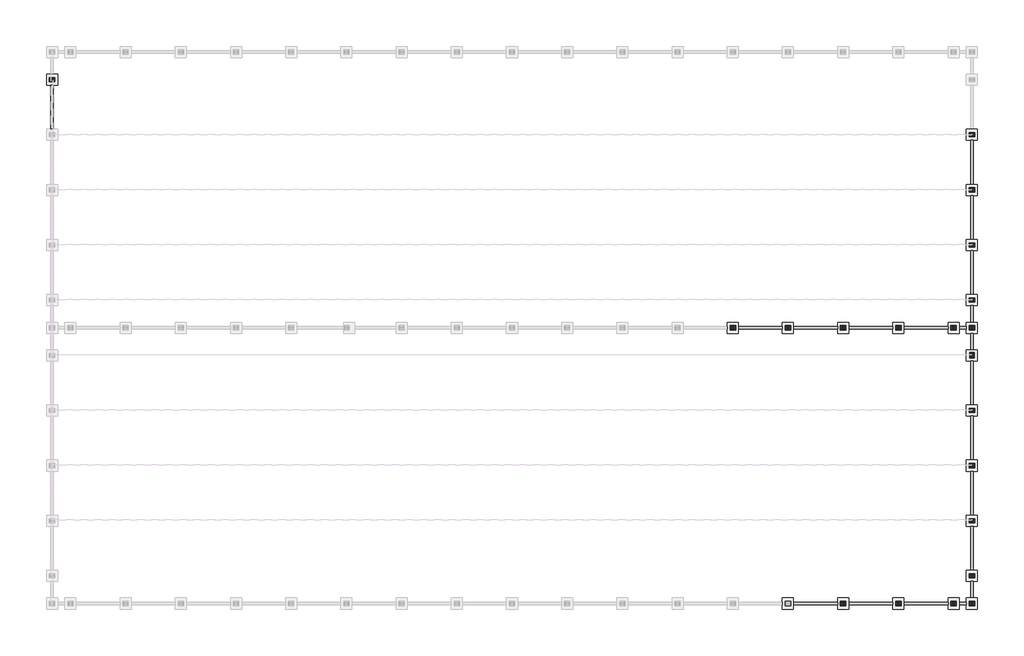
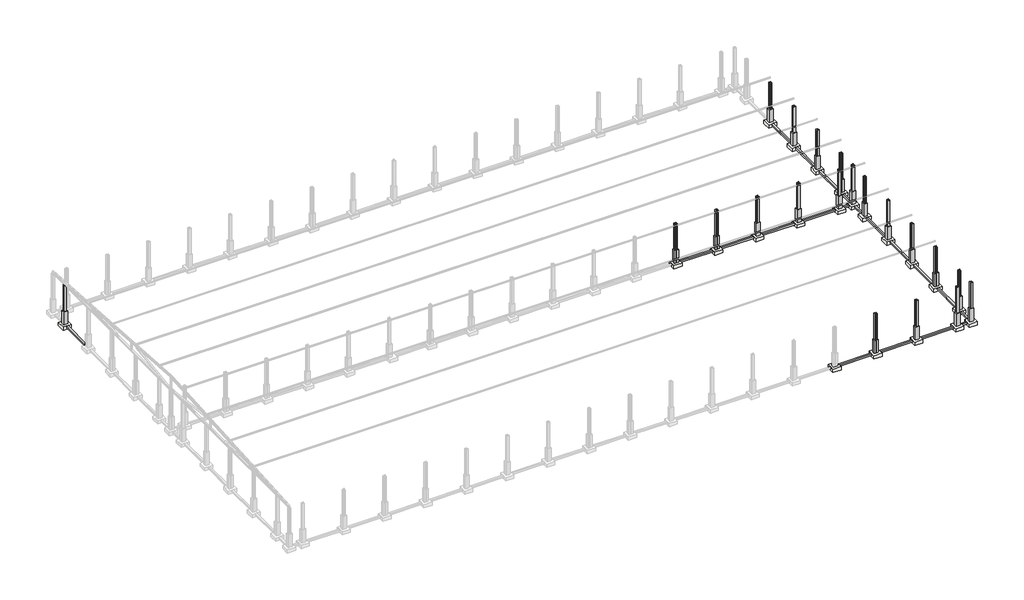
# One storey, part 3 of 4: 40 columns, 21 slabs, 20 beams.
"""IFC4 building model written with IfcOpenShell, lengths in millimetres."""

import ifcopenshell
import ifcopenshell.guid

model = None  # the IFC model being written
_history = None  # IfcOwnerHistory: only IFC2X3 demands one
_inside = {}  # id of a spatial element -> (the spatial element, [elements in it])
_under = {}  # id of a project, library or spatial element -> (it, [spatial elements below it])
_declared = {}  # id of a project -> (the project, [libraries it declares])
_typed = {}  # id of a type object -> (the type object, [elements of that type])
_made_of = {}  # id of a material, layer set ... -> (it, [elements and type objects made of it])


def new_model(schema):
    """Start an empty IFC model of exactly this schema.

    Asked for "IFC4X3", IfcOpenShell would pick the latest addendum, in which some entities
    have other attributes; the version numbers below select the first issue.
    IFC2X3 requires an IfcOwnerHistory on every rooted entity: one is made here for all.
    """
    global model, _history
    if schema == "IFC4X3":
        model = ifcopenshell.file(schema_version=(4, 3, 0, 0))
    else:
        model = ifcopenshell.file(schema=schema)
    _inside.clear()
    _under.clear()
    _declared.clear()
    _typed.clear()
    _made_of.clear()
    _history = None
    if model.schema == "IFC2X3":
        org = make("IfcOrganization", Name="unknown")
        user = make(
            "IfcPersonAndOrganization",
            ThePerson=make("IfcPerson", FamilyName="unknown"),
            TheOrganization=org,
        )
        app = make(
            "IfcApplication",
            ApplicationDeveloper=org,
            Version="unknown",
            ApplicationFullName="unknown",
            ApplicationIdentifier="unknown",
        )
        _history = make(
            "IfcOwnerHistory",
            OwningUser=user,
            OwningApplication=app,
            ChangeAction="ADDED",
            CreationDate=0,
        )
    return model


def make(cls, **values):
    """One entity of the class cls with the attributes given. An attribute that is None is left unset."""
    return model.create_entity(
        cls, **{name: value for name, value in values.items() if value is not None}
    )


def rooted(cls, **values):
    """An entity with a GlobalId (a new one), such as an element, a storey or a relation."""
    return make(cls, GlobalId=ifcopenshell.guid.new(), OwnerHistory=_history, **values)


def si_unit(unit_type, name, prefix=None):
    """IfcSIUnit, for example si_unit("LENGTHUNIT", "METRE", prefix="MILLI")."""
    return make("IfcSIUnit", UnitType=unit_type, Prefix=prefix, Name=name)


def assignment(units):
    """IfcUnitAssignment: the units of a project."""
    return None if units is None else make("IfcUnitAssignment", Units=units)


def point(xyz):
    """IfcCartesianPoint."""
    return None if xyz is None else make("IfcCartesianPoint", Coordinates=xyz)


def direction(xyz):
    """IfcDirection."""
    return None if xyz is None else make("IfcDirection", DirectionRatios=xyz)


def frame(location, z_axis=None, x_axis=None):
    """IfcAxis2Placement3D, a coordinate frame: its origin and axes. An axis left out is left unset."""
    return make(
        "IfcAxis2Placement3D",
        Location=point(location),
        Axis=direction(z_axis),
        RefDirection=direction(x_axis),
    )


def frame_2d(location, x_axis=None):
    """IfcAxis2Placement2D, a coordinate frame in the plane: its origin and x axis."""
    return make(
        "IfcAxis2Placement2D", Location=point(location), RefDirection=direction(x_axis)
    )


def origin():
    """The frame at (0, 0, 0) with its axes left unset."""
    return frame((0.0, 0.0, 0.0))


def origin_with_axes():
    """The frame at (0, 0, 0) with the z axis (0, 0, 1) and the x axis (1, 0, 0) written out."""
    return frame((0.0, 0.0, 0.0), z_axis=(0.0, 0.0, 1.0), x_axis=(1.0, 0.0, 0.0))


def place(relative_to, where):
    """IfcLocalPlacement: puts the frame where relative to a parent placement (None: the world)."""
    return make(
        "IfcLocalPlacement", PlacementRelTo=relative_to, RelativePlacement=where
    )


def context(
    kind, dimensions, precision=None, world=None, true_north=None, identifier=None
):
    """IfcGeometricRepresentationContext, for example the 3D "Model" context."""
    return make(
        "IfcGeometricRepresentationContext",
        ContextIdentifier=identifier,
        ContextType=kind,
        CoordinateSpaceDimension=dimensions,
        Precision=precision,
        WorldCoordinateSystem=world,
        TrueNorth=true_north,
    )


def project(units=None, contexts=None):
    """IfcProject with its units and contexts."""
    return rooted(
        "IfcProject",
        Name="project",
        RepresentationContexts=contexts,
        UnitsInContext=assignment(units),
    )


def spatial(cls, under=None, at=None, **own):
    """A site, building, storey or space (cls), placed at a placement, below another one or the project."""
    s = rooted(cls, ObjectPlacement=at, **own)
    if under is not None:
        _under.setdefault(under.id(), (under, []))[1].append(s)
    return s


def polyline(points):
    """IfcPolyline through the points."""
    return make("IfcPolyline", Points=[point(p) for p in points])


def circle_curve(where, radius):
    """IfcCircle in the frame where."""
    return make("IfcCircle", Position=where, Radius=radius)


def trimmed(basis, trim1, trim2, sense, master):
    """IfcTrimmedCurve: the piece of a basis curve between two trims."""
    return make(
        "IfcTrimmedCurve",
        BasisCurve=basis,
        Trim1=trim1,
        Trim2=trim2,
        SenseAgreement=sense,
        MasterRepresentation=master,
    )


def segment(curve, same_sense, transition):
    """IfcCompositeCurveSegment."""
    return make(
        "IfcCompositeCurveSegment",
        Transition=transition,
        SameSense=same_sense,
        ParentCurve=curve,
    )


def composite_curve(segments, self_intersect=None):
    """IfcCompositeCurve: segments joined end to end."""
    return make("IfcCompositeCurve", Segments=segments, SelfIntersect=self_intersect)


def outline(outer, holes=None, kind="AREA"):
    """IfcArbitraryClosedProfileDef: a profile drawn as a closed curve; with holes, ...WithVoids."""
    if holes is None:
        return make("IfcArbitraryClosedProfileDef", ProfileType=kind, OuterCurve=outer)
    return make(
        "IfcArbitraryProfileDefWithVoids",
        ProfileType=kind,
        OuterCurve=outer,
        InnerCurves=holes,
    )


def extrude(swept, where, along, depth):
    """IfcExtrudedAreaSolid: the profile swept, set in the frame where, extruded along a direction by depth."""
    return make(
        "IfcExtrudedAreaSolid",
        SweptArea=swept,
        Position=where,
        ExtrudedDirection=direction(along),
        Depth=depth,
    )


def faces_of(points, faces, orient=None, outer=None):
    """IfcFace entities. A face is a list of loops; a loop is a list of indices into points, from 0.

    orient and outer hold one flag for each loop. By default every Orientation is true, the
    first loop of a face is its IfcFaceOuterBound and the others are IfcFaceBound.
    """
    made = []
    for i, loops in enumerate(faces):
        bounds = []
        for j, loop in enumerate(loops):
            is_outer = j == 0 if outer is None else outer[i][j]
            bounds.append(
                make(
                    "IfcFaceOuterBound" if is_outer else "IfcFaceBound",
                    Bound=make("IfcPolyLoop", Polygon=[points[k] for k in loop]),
                    Orientation=True if orient is None else orient[i][j],
                )
            )
        made.append(make("IfcFace", Bounds=bounds))
    return made


def faceted_brep(points, faces, orient=None, outer=None, voids=None):
    """IfcFacetedBrep: a solid bounded by flat faces; with voids (closed shells), ...WithVoids."""
    shared = [point(p) for p in points]
    hull = make("IfcClosedShell", CfsFaces=faces_of(shared, faces, orient, outer))
    if voids is None:
        return make("IfcFacetedBrep", Outer=hull)
    return make(
        "IfcFacetedBrepWithVoids",
        Outer=hull,
        Voids=[
            make(cls, CfsFaces=faces_of(shared, fs, o, b)) for cls, fs, o, b in voids
        ],
    )


def shape(context_of_items, identifier, shape_type, items):
    """IfcShapeRepresentation: the items that make up one representation, for example the "Body"."""
    return make(
        "IfcShapeRepresentation",
        ContextOfItems=context_of_items,
        RepresentationIdentifier=identifier,
        RepresentationType=shape_type,
        Items=items,
    )


def source(mapping_origin, context_of_items, identifier, shape_type, items):
    """IfcRepresentationMap: a shape defined once, which mapped items show again and again."""
    return make(
        "IfcRepresentationMap",
        MappingOrigin=mapping_origin,
        MappedRepresentation=shape(context_of_items, identifier, shape_type, items),
    )


def transform(
    local_origin,
    x_axis=None,
    y_axis=None,
    z_axis=None,
    scale=None,
    scale2=None,
    scale3=None,
    uniform=True,
):
    """IfcCartesianTransformationOperator3D, or its non-uniform kind. x_axis, y_axis, z_axis: its Axis1, 2, 3."""
    if uniform:
        return make(
            "IfcCartesianTransformationOperator3D",
            Axis1=direction(x_axis),
            Axis2=direction(y_axis),
            LocalOrigin=point(local_origin),
            Scale=scale,
            Axis3=direction(z_axis),
        )
    return make(
        "IfcCartesianTransformationOperator3DnonUniform",
        Axis1=direction(x_axis),
        Axis2=direction(y_axis),
        LocalOrigin=point(local_origin),
        Scale=scale,
        Axis3=direction(z_axis),
        Scale2=scale2,
        Scale3=scale3,
    )


def mapped(mapping_source, mapping_target):
    """IfcMappedItem: shows the shape of a source again, moved by a transform."""
    return make(
        "IfcMappedItem", MappingSource=mapping_source, MappingTarget=mapping_target
    )


def made_of(thing, what):
    """Note that an element or type object is made of a material, layer set ...; save() writes the relation."""
    if what is not None:
        _made_of.setdefault(what.id(), (what, []))[1].append(thing)
    return thing


def element(
    cls,
    number,
    at=None,
    inside=None,
    cuts=None,
    type_object=None,
    material=None,
    context=None,
    identifier="Body",
    shape_type=None,
    held_by="IfcProductDefinitionShape",
    body=None,
    shapes=None,
    **own,
):
    """One element of the class cls, such as IfcWall. Its Tag is "e" and its number.

    at: its placement. inside: the storey or other place that contains it. cuts: it is an
    opening in that element (IfcRelVoidsElement). A single representation is given by context,
    identifier, shape_type and body (its items); several are given by shapes. held_by: the class
    of the entity that holds the representations. save() writes the other relations.
    """
    e = rooted(cls, Tag="e%d" % number, ObjectPlacement=at, **own)
    if body is not None:
        shapes = [shape(context, identifier, shape_type, body)]
    if shapes is not None:
        e.Representation = make(held_by, Representations=shapes)
    if inside is not None:
        _inside.setdefault(inside.id(), (inside, []))[1].append(e)
    if cuts is not None:
        rooted(
            "IfcRelVoidsElement", RelatingBuildingElement=cuts, RelatedOpeningElement=e
        )
    if type_object is not None:
        _typed.setdefault(type_object.id(), (type_object, []))[1].append(e)
    return made_of(e, material)


def aggregate(whole, parts):
    """IfcRelAggregates: a whole, such as a stair, and the parts it consists of."""
    return rooted("IfcRelAggregates", RelatingObject=whole, RelatedObjects=parts)


def save(model, path):
    """Write the relations noted so far, then the file.

    IfcRelAggregates (storeys below a building ...), IfcRelContainedInSpatialStructure (elements
    in a storey), IfcRelDefinesByType, IfcRelAssociatesMaterial and IfcRelDeclares: one each for
    every whole, place, type object, material and project.
    """
    for whole, parts in _under.values():
        aggregate(whole, parts)
    for where, things in _inside.values():
        rooted(
            "IfcRelContainedInSpatialStructure",
            RelatedElements=things,
            RelatingStructure=where,
        )
    for kind, things in _typed.values():
        rooted("IfcRelDefinesByType", RelatedObjects=things, RelatingType=kind)
    for what, things in _made_of.values():
        rooted("IfcRelAssociatesMaterial", RelatedObjects=things, RelatingMaterial=what)
    for by, libraries in _declared.values():
        rooted("IfcRelDeclares", RelatingContext=by, RelatedDefinitions=libraries)
    model.write(path)


def columns_rectangular_450x600mm_2512dfd8(model_context):
    return source(origin(), model_context, "Body", "SweptSolid", [
        extrude(outline(polyline([(300.0, 225.0), (300.0, -225.0), (-300.0, -225.0), (-300.0, 225.0), (300.0, 225.0)])), origin_with_axes(), (0.0, 0.0, 1.0), 2000.0),
    ])


def uc_universal_columns_column_uc305x305x97_76abc542(model_context):
    return source(origin(), model_context, "Body", "SweptSolid", [
        extrude(outline(composite_curve([segment(polyline([(152.65, 153.95), (152.65, 138.55), (20.15, 138.55)]), True, "CONTINUOUS"), segment(trimmed(circle_curve(frame_2d((20.15, 123.35)), 15.2), [point((20.15, 138.55))], [point((4.95, 123.35))], True, "CARTESIAN"), True, "CONTINUOUS"), segment(polyline([(4.95, 123.35), (4.95, -123.35)]), True, "CONTINUOUS"), segment(trimmed(circle_curve(frame_2d((20.15, -123.35)), 15.2), [point((4.95, -123.35))], [point((20.15, -138.55))], True, "CARTESIAN"), True, "CONTINUOUS"), segment(polyline([(20.15, -138.55), (152.65, -138.55), (152.65, -153.95), (-152.65, -153.95), (-152.65, -138.55), (-20.15, -138.55)]), True, "CONTINUOUS"), segment(trimmed(circle_curve(frame_2d((-20.15, -123.35)), 15.2), [point((-20.15, -138.55))], [point((-4.95, -123.35))], True, "CARTESIAN"), True, "CONTINUOUS"), segment(polyline([(-4.95, -123.35), (-4.95, 123.35)]), True, "CONTINUOUS"), segment(trimmed(circle_curve(frame_2d((-20.15, 123.35)), 15.2), [point((-4.95, 123.35))], [point((-20.15, 138.55))], True, "CARTESIAN"), True, "CONTINUOUS"), segment(polyline([(-20.15, 138.55), (-152.65, 138.55), (-152.65, 153.95), (152.65, 153.95)]), True, "CONTINUOUS")], self_intersect=False)), origin_with_axes(), (0.0, 0.0, 1.0), 6000.0),
    ])


model = new_model("IFC4")

# Units and contexts
model_context = context("Model", 3, world=origin())
ifc_project = project(units=[si_unit("LENGTHUNIT", "METRE", prefix="MILLI")], contexts=[model_context])

# Site, building, storey
site = spatial("IfcSite", under=ifc_project)
building = spatial("IfcBuilding", under=site)
storey = spatial("IfcBuildingStorey", under=building, Name="Kota 0", Elevation=0.0)

# Beams
placement = place(None, origin())
element("IfcBeam", 1, ObjectType="Concrete-Rectangular Beam : 16 x 32", at=placement, inside=storey, context=model_context, shape_type="SweptSolid", body=[
    extrude(outline(polyline([(76463.6750595, -52841.8171651), (76463.6750595, -53091.8171651), (71663.6750595, -53091.8171651), (71663.6750595, -52841.8171651), (76463.6750595, -52841.8171651)])), frame((0.0, 0.0, -250.0), z_axis=(0.0, 0.0, 1.0), x_axis=(1.0, 0.0, 0.0)), (0.0, 0.0, 1.0), 250.0),
])
element("IfcBeam", 2, ObjectType="Concrete-Rectangular Beam : 16 x 32", at=placement, inside=storey, context=model_context, shape_type="SweptSolid", body=[
    extrude(outline(polyline([(82463.6750595, -52841.8171651), (82463.6750595, -53091.8171651), (77663.6750595, -53091.8171651), (77663.6750595, -52841.8171651), (82463.6750595, -52841.8171651)])), frame((0.0, 0.0, -250.0), z_axis=(0.0, 0.0, 1.0), x_axis=(1.0, 0.0, 0.0)), (0.0, 0.0, 1.0), 250.0),
])
element("IfcBeam", 3, ObjectType="Concrete-Rectangular Beam : 16 x 32", at=placement, inside=storey, context=model_context, shape_type="SweptSolid", body=[
    extrude(outline(polyline([(88463.6750595, -52841.8171651), (88463.6750595, -53091.8171651), (83663.6750595, -53091.8171651), (83663.6750595, -52841.8171651), (88463.6750595, -52841.8171651)])), frame((0.0, 0.0, -250.0), z_axis=(0.0, 0.0, 1.0), x_axis=(1.0, 0.0, 0.0)), (0.0, 0.0, 1.0), 250.0),
])
element("IfcBeam", 4, ObjectType="Concrete-Rectangular Beam : 16 x 32", at=placement, inside=storey, context=model_context, shape_type="SweptSolid", body=[
    extrude(outline(polyline([(90463.6750595, -52841.8171651), (90463.6750595, -53091.8171651), (89663.6750595, -53091.8171651), (89663.6750595, -52841.8171651), (90463.6750595, -52841.8171651)])), frame((0.0, 0.0, -250.0), z_axis=(0.0, 0.0, 1.0), x_axis=(1.0, 0.0, 0.0)), (0.0, 0.0, 1.0), 250.0),
])
element("IfcBeam", 5, ObjectType="Concrete-Rectangular Beam : 16 x 32", at=placement, inside=storey, context=model_context, shape_type="SweptSolid", body=[
    extrude(outline(polyline([(90938.6750595, -50566.8171651), (91188.6750595, -50566.8171651), (91188.6750595, -52366.8171651), (90938.6750595, -52366.8171651), (90938.6750595, -50566.8171651)])), frame((0.0, 0.0, -250.0), z_axis=(0.0, 0.0, 1.0), x_axis=(1.0, 0.0, 0.0)), (0.0, 0.0, 1.0), 250.0),
])
element("IfcBeam", 6, ObjectType="Concrete-Rectangular Beam : 16 x 32", at=placement, inside=storey, context=model_context, shape_type="SweptSolid", body=[
    extrude(outline(polyline([(90938.6750595, -44566.8171651), (91188.6750595, -44566.8171651), (91188.6750595, -49366.8171651), (90938.6750595, -49366.8171651), (90938.6750595, -44566.8171651)])), frame((0.0, 0.0, -250.0), z_axis=(0.0, 0.0, 1.0), x_axis=(1.0, 0.0, 0.0)), (0.0, 0.0, 1.0), 250.0),
])
element("IfcBeam", 7, ObjectType="Concrete-Rectangular Beam : 16 x 32", at=placement, inside=storey, context=model_context, shape_type="SweptSolid", body=[
    extrude(outline(polyline([(90938.6750595, -38566.8171651), (91188.6750595, -38566.8171651), (91188.6750595, -43366.8171651), (90938.6750595, -43366.8171651), (90938.6750595, -38566.8171651)])), frame((0.0, 0.0, -250.0), z_axis=(0.0, 0.0, 1.0), x_axis=(1.0, 0.0, 0.0)), (0.0, 0.0, 1.0), 250.0),
])
element("IfcBeam", 8, ObjectType="Concrete-Rectangular Beam : 16 x 32", at=placement, inside=storey, context=model_context, shape_type="SweptSolid", body=[
    extrude(outline(polyline([(90938.6750595, -32566.8171651), (91188.6750595, -32566.8171651), (91188.6750595, -37366.8171651), (90938.6750595, -37366.8171651), (90938.6750595, -32566.8171651)])), frame((0.0, 0.0, -250.0), z_axis=(0.0, 0.0, 1.0), x_axis=(1.0, 0.0, 0.0)), (0.0, 0.0, 1.0), 250.0),
])
element("IfcBeam", 9, ObjectType="Concrete-Rectangular Beam : 16 x 32", at=placement, inside=storey, context=model_context, shape_type="SweptSolid", body=[
    extrude(outline(polyline([(90938.6750595, -26566.8171651), (91188.6750595, -26566.8171651), (91188.6750595, -31366.8171651), (90938.6750595, -31366.8171651), (90938.6750595, -26566.8171651)])), frame((0.0, 0.0, -250.0), z_axis=(0.0, 0.0, 1.0), x_axis=(1.0, 0.0, 0.0)), (0.0, 0.0, 1.0), 250.0),
])
element("IfcBeam", 10, ObjectType="Concrete-Rectangular Beam : 16 x 32", at=placement, inside=storey, context=model_context, shape_type="SweptSolid", body=[
    extrude(outline(polyline([(90938.6750595, -23566.8171651), (91188.6750595, -23566.8171651), (91188.6750595, -25366.8171651), (90938.6750595, -25366.8171651), (90938.6750595, -23566.8171651)])), frame((0.0, 0.0, -250.0), z_axis=(0.0, 0.0, 1.0), x_axis=(1.0, 0.0, 0.0)), (0.0, 0.0, 1.0), 250.0),
])
element("IfcBeam", 11, ObjectType="Concrete-Rectangular Beam : 16 x 32", at=placement, inside=storey, context=model_context, shape_type="SweptSolid", body=[
    extrude(outline(polyline([(90938.6750595, -20566.8171651), (91188.6750595, -20566.8171651), (91188.6750595, -22366.8171651), (90938.6750595, -22366.8171651), (90938.6750595, -20566.8171651)])), frame((0.0, 0.0, -250.0), z_axis=(0.0, 0.0, 1.0), x_axis=(1.0, 0.0, 0.0)), (0.0, 0.0, 1.0), 250.0),
])
element("IfcBeam", 12, ObjectType="Concrete-Rectangular Beam : 16 x 32", at=placement, inside=storey, context=model_context, shape_type="SweptSolid", body=[
    extrude(outline(polyline([(90938.6750595, -14566.8171651), (91188.6750595, -14566.8171651), (91188.6750595, -19366.8171651), (90938.6750595, -19366.8171651), (90938.6750595, -14566.8171651)])), frame((0.0, 0.0, -250.0), z_axis=(0.0, 0.0, 1.0), x_axis=(1.0, 0.0, 0.0)), (0.0, 0.0, 1.0), 250.0),
])
element("IfcBeam", 13, ObjectType="Concrete-Rectangular Beam : 16 x 32", at=placement, inside=storey, context=model_context, shape_type="SweptSolid", body=[
    extrude(outline(polyline([(90938.6750595, -8566.8171651), (91188.6750595, -8566.8171651), (91188.6750595, -13366.8171651), (90938.6750595, -13366.8171651), (90938.6750595, -8566.8171651)])), frame((0.0, 0.0, -250.0), z_axis=(0.0, 0.0, 1.0), x_axis=(1.0, 0.0, 0.0)), (0.0, 0.0, 1.0), 250.0),
])
element("IfcBeam", 14, ObjectType="Concrete-Rectangular Beam : 16 x 32", at=placement, inside=storey, context=model_context, shape_type="SweptSolid", body=[
    extrude(outline(polyline([(90938.6750595, -2566.8171651), (91188.6750595, -2566.8171651), (91188.6750595, -7366.8171651), (90938.6750595, -7366.8171651), (90938.6750595, -2566.8171651)])), frame((0.0, 0.0, -250.0), z_axis=(0.0, 0.0, 1.0), x_axis=(1.0, 0.0, 0.0)), (0.0, 0.0, 1.0), 250.0),
])
element("IfcBeam", 15, ObjectType="Concrete-Rectangular Beam : 16 x 32", at=placement, inside=storey, context=model_context, shape_type="SweptSolid", body=[
    extrude(outline(polyline([(-8811.3249405, -1366.8171651), (-9061.3249405, -1366.8171651), (-9061.3249405, 3433.1828349), (-8811.3249405, 3433.1828349), (-8811.3249405, -1366.8171651)])), frame((0.0, 0.0, -250.0), z_axis=(0.0, 0.0, 1.0), x_axis=(1.0, 0.0, 0.0)), (0.0, 0.0, 1.0), 250.0),
])
element("IfcBeam", 16, ObjectType="Concrete-Rectangular Beam : 16 x 32", at=placement, inside=storey, context=model_context, shape_type="SweptSolid", body=[
    extrude(outline(polyline([(65663.6750595, -23091.8171651), (65663.6750595, -22841.8171651), (70463.6750595, -22841.8171651), (70463.6750595, -23091.8171651), (65663.6750595, -23091.8171651)])), frame((0.0, 0.0, -250.0), z_axis=(0.0, 0.0, 1.0), x_axis=(1.0, 0.0, 0.0)), (0.0, 0.0, 1.0), 250.0),
])
element("IfcBeam", 17, ObjectType="Concrete-Rectangular Beam : 16 x 32", at=placement, inside=storey, context=model_context, shape_type="SweptSolid", body=[
    extrude(outline(polyline([(71663.6750595, -23091.8171651), (71663.6750595, -22841.8171651), (76463.6750595, -22841.8171651), (76463.6750595, -23091.8171651), (71663.6750595, -23091.8171651)])), frame((0.0, 0.0, -250.0), z_axis=(0.0, 0.0, 1.0), x_axis=(1.0, 0.0, 0.0)), (0.0, 0.0, 1.0), 250.0),
])
element("IfcBeam", 18, ObjectType="Concrete-Rectangular Beam : 16 x 32", at=placement, inside=storey, context=model_context, shape_type="SweptSolid", body=[
    extrude(outline(polyline([(77663.6750595, -23091.8171651), (77663.6750595, -22841.8171651), (82463.6750595, -22841.8171651), (82463.6750595, -23091.8171651), (77663.6750595, -23091.8171651)])), frame((0.0, 0.0, -250.0), z_axis=(0.0, 0.0, 1.0), x_axis=(1.0, 0.0, 0.0)), (0.0, 0.0, 1.0), 250.0),
])
element("IfcBeam", 19, ObjectType="Concrete-Rectangular Beam : 16 x 32", at=placement, inside=storey, context=model_context, shape_type="SweptSolid", body=[
    extrude(outline(polyline([(83663.6750595, -23091.8171651), (83663.6750595, -22841.8171651), (88463.6750595, -22841.8171651), (88463.6750595, -23091.8171651), (83663.6750595, -23091.8171651)])), frame((0.0, 0.0, -250.0), z_axis=(0.0, 0.0, 1.0), x_axis=(1.0, 0.0, 0.0)), (0.0, 0.0, 1.0), 250.0),
])
element("IfcBeam", 20, ObjectType="Concrete-Rectangular Beam : 16 x 32", at=placement, inside=storey, context=model_context, shape_type="SweptSolid", body=[
    extrude(outline(polyline([(90463.6750595, -22841.8171651), (90463.6750595, -23091.8171651), (89663.6750595, -23091.8171651), (89663.6750595, -22841.8171651), (90463.6750595, -22841.8171651)])), frame((0.0, 0.0, -250.0), z_axis=(0.0, 0.0, 1.0), x_axis=(1.0, 0.0, 0.0)), (0.0, 0.0, 1.0), 250.0),
])

# Columns
columns_rectangular_450x600mm_shape = columns_rectangular_450x600mm_2512dfd8(model_context)
element("IfcColumn", 21, ObjectType="Columns_Rectangular : 450x600mm", at=placement, inside=storey, context=model_context, shape_type="MappedRepresentation", body=[
    mapped(columns_rectangular_450x600mm_shape, transform((91063.6750595, -1966.8171651, 0.0), x_axis=(1.0, 0.0, 0.0), y_axis=(0.0, 1.0, 0.0), z_axis=(0.0, 0.0, 1.0))),
])
element("IfcColumn", 22, ObjectType="Columns_Rectangular : 450x600mm", at=placement, inside=storey, context=model_context, shape_type="MappedRepresentation", body=[
    mapped(columns_rectangular_450x600mm_shape, transform((91063.6750595, -7966.8171651, 0.0), x_axis=(1.0, 0.0, 0.0), y_axis=(0.0, 1.0, 0.0), z_axis=(0.0, 0.0, 1.0))),
])
element("IfcColumn", 23, ObjectType="Columns_Rectangular : 450x600mm", at=placement, inside=storey, context=model_context, shape_type="MappedRepresentation", body=[
    mapped(columns_rectangular_450x600mm_shape, transform((91063.6750595, -13966.8171651, 0.0), x_axis=(1.0, 0.0, 0.0), y_axis=(0.0, 1.0, 0.0), z_axis=(0.0, 0.0, 1.0))),
])
element("IfcColumn", 24, ObjectType="Columns_Rectangular : 450x600mm", at=placement, inside=storey, context=model_context, shape_type="MappedRepresentation", body=[
    mapped(columns_rectangular_450x600mm_shape, transform((91063.6750595, -19966.8171651, 0.0), x_axis=(1.0, 0.0, 0.0), y_axis=(0.0, 1.0, 0.0), z_axis=(0.0, 0.0, 1.0))),
])
element("IfcColumn", 25, ObjectType="Columns_Rectangular : 450x600mm", at=placement, inside=storey, context=model_context, shape_type="MappedRepresentation", body=[
    mapped(columns_rectangular_450x600mm_shape, transform((91063.6750595, -22966.8171651, 0.0), x_axis=(1.0, 0.0, 0.0), y_axis=(0.0, 1.0, 0.0), z_axis=(0.0, 0.0, 1.0))),
])
element("IfcColumn", 26, ObjectType="Columns_Rectangular : 450x600mm", at=placement, inside=storey, context=model_context, shape_type="MappedRepresentation", body=[
    mapped(columns_rectangular_450x600mm_shape, transform((91063.6750595, -25966.8171651, 0.0), x_axis=(0.0, 1.0, 0.0), y_axis=(-1.0, 0.0, 0.0), z_axis=(0.0, 0.0, 1.0))),
])
element("IfcColumn", 27, ObjectType="Columns_Rectangular : 450x600mm", at=placement, inside=storey, context=model_context, shape_type="MappedRepresentation", body=[
    mapped(columns_rectangular_450x600mm_shape, transform((91063.6750595, -31966.8171651, 0.0), x_axis=(1.0, 0.0, 0.0), y_axis=(0.0, 1.0, 0.0), z_axis=(0.0, 0.0, 1.0))),
])
element("IfcColumn", 28, ObjectType="Columns_Rectangular : 450x600mm", at=placement, inside=storey, context=model_context, shape_type="MappedRepresentation", body=[
    mapped(columns_rectangular_450x600mm_shape, transform((91063.6750595, -37966.8171651, 0.0), x_axis=(1.0, 0.0, 0.0), y_axis=(0.0, 1.0, 0.0), z_axis=(0.0, 0.0, 1.0))),
])
element("IfcColumn", 29, ObjectType="Columns_Rectangular : 450x600mm", at=placement, inside=storey, context=model_context, shape_type="MappedRepresentation", body=[
    mapped(columns_rectangular_450x600mm_shape, transform((91063.6750595, -43966.8171651, 0.0), x_axis=(1.0, 0.0, 0.0), y_axis=(0.0, 1.0, 0.0), z_axis=(0.0, 0.0, 1.0))),
])
element("IfcColumn", 30, ObjectType="Columns_Rectangular : 450x600mm", at=placement, inside=storey, context=model_context, shape_type="MappedRepresentation", body=[
    mapped(columns_rectangular_450x600mm_shape, transform((91063.6750595, -49966.8171651, 0.0), x_axis=(1.0, 0.0, 0.0), y_axis=(0.0, 1.0, 0.0), z_axis=(0.0, 0.0, 1.0))),
])
element("IfcColumn", 31, ObjectType="Columns_Rectangular : 450x600mm", at=placement, inside=storey, context=model_context, shape_type="MappedRepresentation", body=[
    mapped(columns_rectangular_450x600mm_shape, transform((91063.6750595, -52966.8171651, 0.0), x_axis=(1.0, 0.0, 0.0), y_axis=(0.0, 1.0, 0.0), z_axis=(0.0, 0.0, 1.0))),
])
element("IfcColumn", 32, ObjectType="Columns_Rectangular : 450x600mm", at=placement, inside=storey, context=model_context, shape_type="MappedRepresentation", body=[
    mapped(columns_rectangular_450x600mm_shape, transform((89063.6750595, -52966.8171651, 0.0), x_axis=(1.0, 0.0, 0.0), y_axis=(0.0, 1.0, 0.0), z_axis=(0.0, 0.0, 1.0))),
])
element("IfcColumn", 33, ObjectType="Columns_Rectangular : 450x600mm", at=placement, inside=storey, context=model_context, shape_type="MappedRepresentation", body=[
    mapped(columns_rectangular_450x600mm_shape, transform((83063.6750595, -52966.8171651, 0.0), x_axis=(1.0, 0.0, 0.0), y_axis=(0.0, 1.0, 0.0), z_axis=(0.0, 0.0, 1.0))),
])
element("IfcColumn", 34, ObjectType="Columns_Rectangular : 450x600mm", at=placement, inside=storey, context=model_context, shape_type="MappedRepresentation", body=[
    mapped(columns_rectangular_450x600mm_shape, transform((77063.6750595, -52966.8171651, 0.0), x_axis=(1.0, 0.0, 0.0), y_axis=(0.0, 1.0, 0.0), z_axis=(0.0, 0.0, 1.0))),
])
element("IfcColumn", 35, ObjectType="Columns_Rectangular : 450x600mm", at=placement, inside=storey, context=model_context, shape_type="MappedRepresentation", body=[
    mapped(columns_rectangular_450x600mm_shape, transform((-8936.3249405, 4033.1828349, 0.0), x_axis=(1.0, 0.0, 0.0), y_axis=(0.0, 1.0, 0.0), z_axis=(0.0, 0.0, 1.0))),
])
element("IfcColumn", 36, ObjectType="Columns_Rectangular : 450x600mm", at=placement, inside=storey, context=model_context, shape_type="MappedRepresentation", body=[
    mapped(columns_rectangular_450x600mm_shape, transform((65063.6750595, -22966.8171651, 0.0), x_axis=(1.0, 0.0, 0.0), y_axis=(0.0, 1.0, 0.0), z_axis=(0.0, 0.0, 1.0))),
])
element("IfcColumn", 37, ObjectType="Columns_Rectangular : 450x600mm", at=placement, inside=storey, context=model_context, shape_type="MappedRepresentation", body=[
    mapped(columns_rectangular_450x600mm_shape, transform((71063.6750595, -22966.8171651, 0.0), x_axis=(1.0, 0.0, 0.0), y_axis=(0.0, 1.0, 0.0), z_axis=(0.0, 0.0, 1.0))),
])
element("IfcColumn", 38, ObjectType="Columns_Rectangular : 450x600mm", at=placement, inside=storey, context=model_context, shape_type="MappedRepresentation", body=[
    mapped(columns_rectangular_450x600mm_shape, transform((77063.6750595, -22966.8171651, 0.0), x_axis=(1.0, 0.0, 0.0), y_axis=(0.0, 1.0, 0.0), z_axis=(0.0, 0.0, 1.0))),
])
element("IfcColumn", 39, ObjectType="Columns_Rectangular : 450x600mm", at=placement, inside=storey, context=model_context, shape_type="MappedRepresentation", body=[
    mapped(columns_rectangular_450x600mm_shape, transform((83063.6750595, -22966.8171651, 0.0), x_axis=(1.0, 0.0, 0.0), y_axis=(0.0, 1.0, 0.0), z_axis=(0.0, 0.0, 1.0))),
])
element("IfcColumn", 40, ObjectType="Columns_Rectangular : 450x600mm", at=placement, inside=storey, context=model_context, shape_type="MappedRepresentation", body=[
    mapped(columns_rectangular_450x600mm_shape, transform((89063.6750595, -22966.8171651, 0.0), x_axis=(1.0, 0.0, 0.0), y_axis=(0.0, 1.0, 0.0), z_axis=(0.0, 0.0, 1.0))),
])
uc_universal_columns_column_uc305x305x97_shape = uc_universal_columns_column_uc305x305x97_76abc542(model_context)
element("IfcColumn", 41, ObjectType="UC-Universal Columns-Column : UC305x305x97", at=placement, inside=storey, context=model_context, shape_type="MappedRepresentation", body=[
    mapped(uc_universal_columns_column_uc305x305x97_shape, transform((91063.6750595, -1966.8171651, 0.0), x_axis=(1.0, 0.0, 0.0), y_axis=(0.0, 1.0, 0.0), z_axis=(0.0, 0.0, 1.0))),
])
element("IfcColumn", 42, ObjectType="UC-Universal Columns-Column : UC305x305x97", at=placement, inside=storey, context=model_context, shape_type="MappedRepresentation", body=[
    mapped(uc_universal_columns_column_uc305x305x97_shape, transform((91063.6750595, -7966.8171651, 0.0), x_axis=(1.0, 0.0, 0.0), y_axis=(0.0, 1.0, 0.0), z_axis=(0.0, 0.0, 1.0))),
])
element("IfcColumn", 43, ObjectType="UC-Universal Columns-Column : UC305x305x97", at=placement, inside=storey, context=model_context, shape_type="MappedRepresentation", body=[
    mapped(uc_universal_columns_column_uc305x305x97_shape, transform((91063.6750595, -13966.8171651, 0.0), x_axis=(1.0, 0.0, 0.0), y_axis=(0.0, 1.0, 0.0), z_axis=(0.0, 0.0, 1.0))),
])
element("IfcColumn", 44, ObjectType="UC-Universal Columns-Column : UC305x305x97", at=placement, inside=storey, context=model_context, shape_type="MappedRepresentation", body=[
    mapped(uc_universal_columns_column_uc305x305x97_shape, transform((91063.6750595, -19966.8171651, 0.0), x_axis=(1.0, 0.0, 0.0), y_axis=(0.0, 1.0, 0.0), z_axis=(0.0, 0.0, 1.0))),
])
element("IfcColumn", 45, ObjectType="UC-Universal Columns-Column : UC305x305x97", at=placement, inside=storey, context=model_context, shape_type="MappedRepresentation", body=[
    mapped(uc_universal_columns_column_uc305x305x97_shape, transform((91063.6750595, -25966.8171651, 0.0), x_axis=(1.0, 0.0, 0.0), y_axis=(0.0, 1.0, 0.0), z_axis=(0.0, 0.0, 1.0))),
])
element("IfcColumn", 46, ObjectType="UC-Universal Columns-Column : UC305x305x97", at=placement, inside=storey, context=model_context, shape_type="MappedRepresentation", body=[
    mapped(uc_universal_columns_column_uc305x305x97_shape, transform((91063.6750595, -31966.8171651, 0.0), x_axis=(1.0, 0.0, 0.0), y_axis=(0.0, 1.0, 0.0), z_axis=(0.0, 0.0, 1.0))),
])
element("IfcColumn", 47, ObjectType="UC-Universal Columns-Column : UC305x305x97", at=placement, inside=storey, context=model_context, shape_type="MappedRepresentation", body=[
    mapped(uc_universal_columns_column_uc305x305x97_shape, transform((91063.6750595, -37966.8171651, 0.0), x_axis=(1.0, 0.0, 0.0), y_axis=(0.0, 1.0, 0.0), z_axis=(0.0, 0.0, 1.0))),
])
element("IfcColumn", 48, ObjectType="UC-Universal Columns-Column : UC305x305x97", at=placement, inside=storey, context=model_context, shape_type="MappedRepresentation", body=[
    mapped(uc_universal_columns_column_uc305x305x97_shape, transform((91063.6750595, -43966.8171651, 0.0), x_axis=(1.0, 0.0, 0.0), y_axis=(0.0, 1.0, 0.0), z_axis=(0.0, 0.0, 1.0))),
])
element("IfcColumn", 49, ObjectType="UC-Universal Columns-Column : UC305x305x97", at=placement, inside=storey, context=model_context, shape_type="MappedRepresentation", body=[
    mapped(uc_universal_columns_column_uc305x305x97_shape, transform((91063.6750595, -49966.8171651, 0.0), x_axis=(1.0, 0.0, 0.0), y_axis=(0.0, 1.0, 0.0), z_axis=(0.0, 0.0, 1.0))),
])
element("IfcColumn", 50, ObjectType="UC-Universal Columns-Column : UC305x305x97", at=placement, inside=storey, context=model_context, shape_type="MappedRepresentation", body=[
    mapped(uc_universal_columns_column_uc305x305x97_shape, transform((91063.6750595, -52966.8171651, 0.0), x_axis=(1.0, 0.0, 0.0), y_axis=(0.0, 1.0, 0.0), z_axis=(0.0, 0.0, 1.0))),
])
element("IfcColumn", 51, ObjectType="UC-Universal Columns-Column : UC305x305x97", at=placement, inside=storey, context=model_context, shape_type="MappedRepresentation", body=[
    mapped(uc_universal_columns_column_uc305x305x97_shape, transform((77063.6750595, -52966.8171651, 0.0), x_axis=(1.0, 0.0, 0.0), y_axis=(0.0, 1.0, 0.0), z_axis=(0.0, 0.0, 1.0))),
])
element("IfcColumn", 52, ObjectType="UC-Universal Columns-Column : UC305x305x97", at=placement, inside=storey, context=model_context, shape_type="MappedRepresentation", body=[
    mapped(uc_universal_columns_column_uc305x305x97_shape, transform((83063.6750595, -52966.8171651, 0.0), x_axis=(1.0, 0.0, 0.0), y_axis=(0.0, 1.0, 0.0), z_axis=(0.0, 0.0, 1.0))),
])
element("IfcColumn", 53, ObjectType="UC-Universal Columns-Column : UC305x305x97", at=placement, inside=storey, context=model_context, shape_type="MappedRepresentation", body=[
    mapped(uc_universal_columns_column_uc305x305x97_shape, transform((89063.6750595, -52966.8171651, 0.0), x_axis=(1.0, 0.0, 0.0), y_axis=(0.0, 1.0, 0.0), z_axis=(0.0, 0.0, 1.0))),
])
element("IfcColumn", 54, ObjectType="UC-Universal Columns-Column : UC305x305x97", at=placement, inside=storey, context=model_context, shape_type="MappedRepresentation", body=[
    mapped(uc_universal_columns_column_uc305x305x97_shape, transform((-8936.3249405, 4033.1828349, 0.0), x_axis=(1.0, 0.0, 0.0), y_axis=(0.0, 1.0, 0.0), z_axis=(0.0, 0.0, 1.0))),
])
element("IfcColumn", 55, ObjectType="UC-Universal Columns-Column : UC305x305x97", at=placement, inside=storey, context=model_context, shape_type="MappedRepresentation", body=[
    mapped(uc_universal_columns_column_uc305x305x97_shape, transform((65063.6750595, -22966.8171651, 0.0), x_axis=(-1.0, 0.0, 0.0), y_axis=(0.0, -1.0, 0.0), z_axis=(0.0, 0.0, 1.0))),
])
element("IfcColumn", 56, ObjectType="UC-Universal Columns-Column : UC305x305x97", at=placement, inside=storey, context=model_context, shape_type="MappedRepresentation", body=[
    mapped(uc_universal_columns_column_uc305x305x97_shape, transform((71063.6750595, -22966.8171651, 0.0), x_axis=(-1.0, 0.0, 0.0), y_axis=(0.0, -1.0, 0.0), z_axis=(0.0, 0.0, 1.0))),
])
element("IfcColumn", 57, ObjectType="UC-Universal Columns-Column : UC305x305x97", at=placement, inside=storey, context=model_context, shape_type="MappedRepresentation", body=[
    mapped(uc_universal_columns_column_uc305x305x97_shape, transform((77063.6750595, -22966.8171651, 0.0), x_axis=(-1.0, 0.0, 0.0), y_axis=(0.0, -1.0, 0.0), z_axis=(0.0, 0.0, 1.0))),
])
element("IfcColumn", 58, ObjectType="UC-Universal Columns-Column : UC305x305x97", at=placement, inside=storey, context=model_context, shape_type="MappedRepresentation", body=[
    mapped(uc_universal_columns_column_uc305x305x97_shape, transform((83063.6750595, -22966.8171651, 0.0), x_axis=(-1.0, 0.0, 0.0), y_axis=(0.0, -1.0, 0.0), z_axis=(0.0, 0.0, 1.0))),
])
element("IfcColumn", 59, ObjectType="UC-Universal Columns-Column : UC305x305x97", at=placement, inside=storey, context=model_context, shape_type="MappedRepresentation", body=[
    mapped(uc_universal_columns_column_uc305x305x97_shape, transform((89063.6750595, -22966.8171651, 0.0), x_axis=(-1.0, 0.0, 0.0), y_axis=(0.0, -1.0, 0.0), z_axis=(0.0, 0.0, 1.0))),
])
element("IfcColumn", 60, ObjectType="UC-Universal Columns-Column : UC305x305x97", at=placement, inside=storey, context=model_context, shape_type="MappedRepresentation", body=[
    mapped(uc_universal_columns_column_uc305x305x97_shape, transform((91063.6750595, -22966.8171651, 0.0), x_axis=(-1.0, 0.0, 0.0), y_axis=(0.0, -1.0, 0.0), z_axis=(0.0, 0.0, 1.0))),
])

# Slabs
element("IfcSlab", 61, ObjectType="Footing-Rectangular.0001 : 72\" x 48\" x 18\"", at=placement, inside=storey, context=model_context, shape_type="Brep", body=[
    faceted_brep([(91663.6750595, -1366.8171651, 0.0), (91188.6750595, -1366.8171651, 0.0), (90938.6750595, -1366.8171651, 0.0), (90463.6750595, -1366.8171651, 0.0), (90463.6750595, -2566.8171651, 0.0), (90938.6750595, -2566.8171651, 0.0), (91188.6750595, -2566.8171651, 0.0), (91663.6750595, -2566.8171651, 0.0), (91663.6750595, -1366.8171651, -500.0), (91663.6750595, -2566.8171651, -500.0), (90463.6750595, -2566.8171651, -500.0), (90463.6750595, -1366.8171651, -500.0)], [[[0, 1, 2, 3, 4, 5, 6, 7]], [[8, 9, 10, 11]], [[3, 2, 1, 0, 8, 11]], [[4, 3, 11, 10]], [[7, 6, 5, 4, 10, 9]], [[0, 7, 9, 8]]]),
])
element("IfcSlab", 62, ObjectType="Footing-Rectangular.0001 : 72\" x 48\" x 18\"", at=placement, inside=storey, context=model_context, shape_type="Brep", body=[
    faceted_brep([(91663.6750595, -7366.8171651, 0.0), (91188.6750595, -7366.8171651, 0.0), (90938.6750595, -7366.8171651, 0.0), (90463.6750595, -7366.8171651, 0.0), (90463.6750595, -8566.8171651, 0.0), (90938.6750595, -8566.8171651, 0.0), (91188.6750595, -8566.8171651, 0.0), (91663.6750595, -8566.8171651, 0.0), (91663.6750595, -7366.8171651, -500.0), (91663.6750595, -8566.8171651, -500.0), (90463.6750595, -8566.8171651, -500.0), (90463.6750595, -7366.8171651, -500.0)], [[[0, 1, 2, 3, 4, 5, 6, 7]], [[8, 9, 10, 11]], [[3, 2, 1, 0, 8, 11]], [[4, 3, 11, 10]], [[7, 6, 5, 4, 10, 9]], [[0, 7, 9, 8]]]),
])
element("IfcSlab", 63, ObjectType="Footing-Rectangular.0001 : 72\" x 48\" x 18\"", at=placement, inside=storey, context=model_context, shape_type="Brep", body=[
    faceted_brep([(91663.6750595, -13366.8171651, 0.0), (91188.6750595, -13366.8171651, 0.0), (90938.6750595, -13366.8171651, 0.0), (90463.6750595, -13366.8171651, 0.0), (90463.6750595, -14566.8171651, 0.0), (90938.6750595, -14566.8171651, 0.0), (91188.6750595, -14566.8171651, 0.0), (91663.6750595, -14566.8171651, 0.0), (91663.6750595, -13366.8171651, -500.0), (91663.6750595, -14566.8171651, -500.0), (90463.6750595, -14566.8171651, -500.0), (90463.6750595, -13366.8171651, -500.0)], [[[0, 1, 2, 3, 4, 5, 6, 7]], [[8, 9, 10, 11]], [[3, 2, 1, 0, 8, 11]], [[4, 3, 11, 10]], [[7, 6, 5, 4, 10, 9]], [[0, 7, 9, 8]]]),
])
element("IfcSlab", 64, ObjectType="Footing-Rectangular.0001 : 72\" x 48\" x 18\"", at=placement, inside=storey, context=model_context, shape_type="Brep", body=[
    faceted_brep([(91663.6750595, -19366.8171651, 0.0), (91188.6750595, -19366.8171651, 0.0), (90938.6750595, -19366.8171651, 0.0), (90463.6750595, -19366.8171651, 0.0), (90463.6750595, -20566.8171651, 0.0), (90938.6750595, -20566.8171651, 0.0), (91188.6750595, -20566.8171651, 0.0), (91663.6750595, -20566.8171651, 0.0), (91663.6750595, -19366.8171651, -500.0), (91663.6750595, -20566.8171651, -500.0), (90463.6750595, -20566.8171651, -500.0), (90463.6750595, -19366.8171651, -500.0)], [[[0, 1, 2, 3, 4, 5, 6, 7]], [[8, 9, 10, 11]], [[3, 2, 1, 0, 8, 11]], [[4, 3, 11, 10]], [[7, 6, 5, 4, 10, 9]], [[0, 7, 9, 8]]]),
])
element("IfcSlab", 65, ObjectType="Footing-Rectangular.0001 : 72\" x 48\" x 18\"", at=placement, inside=storey, context=model_context, shape_type="Brep", body=[
    faceted_brep([(91663.6750595, -22366.8171651, 0.0), (91188.6750595, -22366.8171651, 0.0), (90938.6750595, -22366.8171651, 0.0), (90463.6750595, -22366.8171651, 0.0), (90463.6750595, -22841.8171651, 0.0), (90463.6750595, -23091.8171651, 0.0), (90463.6750595, -23566.8171651, 0.0), (90938.6750595, -23566.8171651, 0.0), (91188.6750595, -23566.8171651, 0.0), (91663.6750595, -23566.8171651, 0.0), (91663.6750595, -22366.8171651, -500.0), (91663.6750595, -23566.8171651, -500.0), (90463.6750595, -23566.8171651, -500.0), (90463.6750595, -22366.8171651, -500.0)], [[[0, 1, 2, 3, 4, 5, 6, 7, 8, 9]], [[10, 11, 12, 13]], [[3, 2, 1, 0, 10, 13]], [[6, 5, 4, 3, 13, 12]], [[9, 8, 7, 6, 12, 11]], [[0, 9, 11, 10]]]),
])
element("IfcSlab", 66, ObjectType="Footing-Rectangular.0001 : 72\" x 48\" x 18\"", at=placement, inside=storey, context=model_context, shape_type="Brep", body=[
    faceted_brep([(91663.6750595, -25366.8171651, 0.0), (91188.6750595, -25366.8171651, 0.0), (90938.6750595, -25366.8171651, 0.0), (90463.6750595, -25366.8171651, 0.0), (90463.6750595, -26566.8171651, 0.0), (90938.6750595, -26566.8171651, 0.0), (91188.6750595, -26566.8171651, 0.0), (91663.6750595, -26566.8171651, 0.0), (91663.6750595, -25366.8171651, -500.0), (91663.6750595, -26566.8171651, -500.0), (90463.6750595, -26566.8171651, -500.0), (90463.6750595, -25366.8171651, -500.0)], [[[0, 1, 2, 3, 4, 5, 6, 7]], [[8, 9, 10, 11]], [[3, 2, 1, 0, 8, 11]], [[4, 3, 11, 10]], [[7, 6, 5, 4, 10, 9]], [[0, 7, 9, 8]]]),
])
element("IfcSlab", 67, ObjectType="Footing-Rectangular.0001 : 72\" x 48\" x 18\"", at=placement, inside=storey, context=model_context, shape_type="Brep", body=[
    faceted_brep([(91663.6750595, -31366.8171651, 0.0), (91188.6750595, -31366.8171651, 0.0), (90938.6750595, -31366.8171651, 0.0), (90463.6750595, -31366.8171651, 0.0), (90463.6750595, -32566.8171651, 0.0), (90938.6750595, -32566.8171651, 0.0), (91188.6750595, -32566.8171651, 0.0), (91663.6750595, -32566.8171651, 0.0), (91663.6750595, -31366.8171651, -500.0), (91663.6750595, -32566.8171651, -500.0), (90463.6750595, -32566.8171651, -500.0), (90463.6750595, -31366.8171651, -500.0)], [[[0, 1, 2, 3, 4, 5, 6, 7]], [[8, 9, 10, 11]], [[3, 2, 1, 0, 8, 11]], [[4, 3, 11, 10]], [[7, 6, 5, 4, 10, 9]], [[0, 7, 9, 8]]]),
])
element("IfcSlab", 68, ObjectType="Footing-Rectangular.0001 : 72\" x 48\" x 18\"", at=placement, inside=storey, context=model_context, shape_type="Brep", body=[
    faceted_brep([(91663.6750595, -37366.8171651, 0.0), (91188.6750595, -37366.8171651, 0.0), (90938.6750595, -37366.8171651, 0.0), (90463.6750595, -37366.8171651, 0.0), (90463.6750595, -38566.8171651, 0.0), (90938.6750595, -38566.8171651, 0.0), (91188.6750595, -38566.8171651, 0.0), (91663.6750595, -38566.8171651, 0.0), (91663.6750595, -37366.8171651, -500.0), (91663.6750595, -38566.8171651, -500.0), (90463.6750595, -38566.8171651, -500.0), (90463.6750595, -37366.8171651, -500.0)], [[[0, 1, 2, 3, 4, 5, 6, 7]], [[8, 9, 10, 11]], [[3, 2, 1, 0, 8, 11]], [[4, 3, 11, 10]], [[7, 6, 5, 4, 10, 9]], [[0, 7, 9, 8]]]),
])
element("IfcSlab", 69, ObjectType="Footing-Rectangular.0001 : 72\" x 48\" x 18\"", at=placement, inside=storey, context=model_context, shape_type="Brep", body=[
    faceted_brep([(91663.6750595, -43366.8171651, 0.0), (91188.6750595, -43366.8171651, 0.0), (90938.6750595, -43366.8171651, 0.0), (90463.6750595, -43366.8171651, 0.0), (90463.6750595, -44566.8171651, 0.0), (90938.6750595, -44566.8171651, 0.0), (91188.6750595, -44566.8171651, 0.0), (91663.6750595, -44566.8171651, 0.0), (91663.6750595, -43366.8171651, -500.0), (91663.6750595, -44566.8171651, -500.0), (90463.6750595, -44566.8171651, -500.0), (90463.6750595, -43366.8171651, -500.0)], [[[0, 1, 2, 3, 4, 5, 6, 7]], [[8, 9, 10, 11]], [[3, 2, 1, 0, 8, 11]], [[4, 3, 11, 10]], [[7, 6, 5, 4, 10, 9]], [[0, 7, 9, 8]]]),
])
element("IfcSlab", 70, ObjectType="Footing-Rectangular.0001 : 72\" x 48\" x 18\"", at=placement, inside=storey, context=model_context, shape_type="Brep", body=[
    faceted_brep([(91663.6750595, -49366.8171651, 0.0), (91188.6750595, -49366.8171651, 0.0), (90938.6750595, -49366.8171651, 0.0), (90463.6750595, -49366.8171651, 0.0), (90463.6750595, -50566.8171651, 0.0), (90938.6750595, -50566.8171651, 0.0), (91188.6750595, -50566.8171651, 0.0), (91663.6750595, -50566.8171651, 0.0), (91663.6750595, -49366.8171651, -500.0), (91663.6750595, -50566.8171651, -500.0), (90463.6750595, -50566.8171651, -500.0), (90463.6750595, -49366.8171651, -500.0)], [[[0, 1, 2, 3, 4, 5, 6, 7]], [[8, 9, 10, 11]], [[3, 2, 1, 0, 8, 11]], [[4, 3, 11, 10]], [[7, 6, 5, 4, 10, 9]], [[0, 7, 9, 8]]]),
])
element("IfcSlab", 71, ObjectType="Footing-Rectangular.0001 : 72\" x 48\" x 18\"", at=placement, inside=storey, context=model_context, shape_type="Brep", body=[
    faceted_brep([(91663.6750595, -52366.8171651, 0.0), (91188.6750595, -52366.8171651, 0.0), (90938.6750595, -52366.8171651, 0.0), (90463.6750595, -52366.8171651, 0.0), (90463.6750595, -52841.8171651, 0.0), (90463.6750595, -53091.8171651, 0.0), (90463.6750595, -53566.8171651, 0.0), (91663.6750595, -53566.8171651, 0.0), (91663.6750595, -52366.8171651, -500.0), (91663.6750595, -53566.8171651, -500.0), (90463.6750595, -53566.8171651, -500.0), (90463.6750595, -52366.8171651, -500.0)], [[[0, 1, 2, 3, 4, 5, 6, 7]], [[8, 9, 10, 11]], [[3, 2, 1, 0, 8, 11]], [[6, 5, 4, 3, 11, 10]], [[7, 6, 10, 9]], [[0, 7, 9, 8]]]),
])
element("IfcSlab", 72, ObjectType="Footing-Rectangular.0001 : 72\" x 48\" x 18\"", at=placement, inside=storey, context=model_context, shape_type="Brep", body=[
    faceted_brep([(89663.6750595, -52366.8171651, 0.0), (88463.6750595, -52366.8171651, 0.0), (88463.6750595, -52841.8171651, 0.0), (88463.6750595, -53091.8171651, 0.0), (88463.6750595, -53566.8171651, 0.0), (89663.6750595, -53566.8171651, 0.0), (89663.6750595, -53091.8171651, 0.0), (89663.6750595, -52841.8171651, 0.0), (89663.6750595, -52366.8171651, -500.0), (89663.6750595, -53566.8171651, -500.0), (88463.6750595, -53566.8171651, -500.0), (88463.6750595, -52366.8171651, -500.0)], [[[0, 1, 2, 3, 4, 5, 6, 7]], [[8, 9, 10, 11]], [[1, 0, 8, 11]], [[4, 3, 2, 1, 11, 10]], [[5, 4, 10, 9]], [[0, 7, 6, 5, 9, 8]]]),
])
element("IfcSlab", 73, ObjectType="Footing-Rectangular.0001 : 72\" x 48\" x 18\"", at=placement, inside=storey, context=model_context, shape_type="Brep", body=[
    faceted_brep([(83663.6750595, -52366.8171651, 0.0), (82463.6750595, -52366.8171651, 0.0), (82463.6750595, -52841.8171651, 0.0), (82463.6750595, -53091.8171651, 0.0), (82463.6750595, -53566.8171651, 0.0), (83663.6750595, -53566.8171651, 0.0), (83663.6750595, -53091.8171651, 0.0), (83663.6750595, -52841.8171651, 0.0), (83663.6750595, -52366.8171651, -500.0), (83663.6750595, -53566.8171651, -500.0), (82463.6750595, -53566.8171651, -500.0), (82463.6750595, -52366.8171651, -500.0)], [[[0, 1, 2, 3, 4, 5, 6, 7]], [[8, 9, 10, 11]], [[1, 0, 8, 11]], [[4, 3, 2, 1, 11, 10]], [[5, 4, 10, 9]], [[0, 7, 6, 5, 9, 8]]]),
])
element("IfcSlab", 74, ObjectType="Footing-Rectangular.0001 : 72\" x 48\" x 18\"", at=placement, inside=storey, context=model_context, shape_type="Brep", body=[
    faceted_brep([(77663.6750595, -52366.8171651, 0.0), (76463.6750595, -52366.8171651, 0.0), (76463.6750595, -52841.8171651, 0.0), (76463.6750595, -53091.8171651, 0.0), (76463.6750595, -53566.8171651, 0.0), (77663.6750595, -53566.8171651, 0.0), (77663.6750595, -53091.8171651, 0.0), (77663.6750595, -52841.8171651, 0.0), (77663.6750595, -52366.8171651, -500.0), (77663.6750595, -53566.8171651, -500.0), (76463.6750595, -53566.8171651, -500.0), (76463.6750595, -52366.8171651, -500.0)], [[[0, 1, 2, 3, 4, 5, 6, 7]], [[8, 9, 10, 11]], [[1, 0, 8, 11]], [[4, 3, 2, 1, 11, 10]], [[5, 4, 10, 9]], [[0, 7, 6, 5, 9, 8]]]),
])
element("IfcSlab", 75, ObjectType="Footing-Rectangular.0001 : 72\" x 48\" x 18\"", at=placement, inside=storey, context=model_context, shape_type="Brep", body=[
    faceted_brep([(71663.6750595, -52366.8171651, 0.0), (70463.6750595, -52366.8171651, 0.0), (70463.6750595, -52841.8171651, 0.0), (70463.6750595, -53091.8171651, 0.0), (70463.6750595, -53566.8171651, 0.0), (71663.6750595, -53566.8171651, 0.0), (71663.6750595, -53091.8171651, 0.0), (71663.6750595, -52841.8171651, 0.0), (71663.6750595, -52366.8171651, -500.0), (71663.6750595, -53566.8171651, -500.0), (70463.6750595, -53566.8171651, -500.0), (70463.6750595, -52366.8171651, -500.0)], [[[0, 1, 2, 3, 4, 5, 6, 7]], [[8, 9, 10, 11]], [[1, 0, 8, 11]], [[4, 3, 2, 1, 11, 10]], [[5, 4, 10, 9]], [[0, 7, 6, 5, 9, 8]]]),
])
element("IfcSlab", 76, ObjectType="Footing-Rectangular.0001 : 72\" x 48\" x 18\"", at=placement, inside=storey, context=model_context, shape_type="Brep", body=[
    faceted_brep([(-8336.3249405, 4633.1828349, 0.0), (-8811.3249405, 4633.1828349, 0.0), (-9061.3249405, 4633.1828349, 0.0), (-9536.3249405, 4633.1828349, 0.0), (-9536.3249405, 3433.1828349, 0.0), (-9061.3249405, 3433.1828349, 0.0), (-8811.3249405, 3433.1828349, 0.0), (-8336.3249405, 3433.1828349, 0.0), (-8336.3249405, 4633.1828349, -500.0), (-8336.3249405, 3433.1828349, -500.0), (-9536.3249405, 3433.1828349, -500.0), (-9536.3249405, 4633.1828349, -500.0)], [[[0, 1, 2, 3, 4, 5, 6, 7]], [[8, 9, 10, 11]], [[3, 2, 1, 0, 8, 11]], [[4, 3, 11, 10]], [[7, 6, 5, 4, 10, 9]], [[0, 7, 9, 8]]]),
])
element("IfcSlab", 77, ObjectType="Footing-Rectangular.0001 : 72\" x 48\" x 18\"", at=placement, inside=storey, context=model_context, shape_type="Brep", body=[
    faceted_brep([(65663.6750595, -22366.8171651, 0.0), (64463.6750595, -22366.8171651, 0.0), (64463.6750595, -22841.8171651, 0.0), (64463.6750595, -23091.8171651, 0.0), (64463.6750595, -23566.8171651, 0.0), (65663.6750595, -23566.8171651, 0.0), (65663.6750595, -23091.8171651, 0.0), (65663.6750595, -22841.8171651, 0.0), (65663.6750595, -22366.8171651, -500.0), (65663.6750595, -23566.8171651, -500.0), (64463.6750595, -23566.8171651, -500.0), (64463.6750595, -22366.8171651, -500.0)], [[[0, 1, 2, 3, 4, 5, 6, 7]], [[8, 9, 10, 11]], [[1, 0, 8, 11]], [[4, 3, 2, 1, 11, 10]], [[5, 4, 10, 9]], [[0, 7, 6, 5, 9, 8]]]),
])
element("IfcSlab", 78, ObjectType="Footing-Rectangular.0001 : 72\" x 48\" x 18\"", at=placement, inside=storey, context=model_context, shape_type="Brep", body=[
    faceted_brep([(71663.6750595, -22366.8171651, 0.0), (70463.6750595, -22366.8171651, 0.0), (70463.6750595, -22841.8171651, 0.0), (70463.6750595, -23091.8171651, 0.0), (70463.6750595, -23566.8171651, 0.0), (71663.6750595, -23566.8171651, 0.0), (71663.6750595, -23091.8171651, 0.0), (71663.6750595, -22841.8171651, 0.0), (71663.6750595, -22366.8171651, -500.0), (71663.6750595, -23566.8171651, -500.0), (70463.6750595, -23566.8171651, -500.0), (70463.6750595, -22366.8171651, -500.0)], [[[0, 1, 2, 3, 4, 5, 6, 7]], [[8, 9, 10, 11]], [[1, 0, 8, 11]], [[4, 3, 2, 1, 11, 10]], [[5, 4, 10, 9]], [[0, 7, 6, 5, 9, 8]]]),
])
element("IfcSlab", 79, ObjectType="Footing-Rectangular.0001 : 72\" x 48\" x 18\"", at=placement, inside=storey, context=model_context, shape_type="Brep", body=[
    faceted_brep([(77663.6750595, -22366.8171651, 0.0), (76463.6750595, -22366.8171651, 0.0), (76463.6750595, -22841.8171651, 0.0), (76463.6750595, -23091.8171651, 0.0), (76463.6750595, -23566.8171651, 0.0), (77663.6750595, -23566.8171651, 0.0), (77663.6750595, -23091.8171651, 0.0), (77663.6750595, -22841.8171651, 0.0), (77663.6750595, -22366.8171651, -500.0), (77663.6750595, -23566.8171651, -500.0), (76463.6750595, -23566.8171651, -500.0), (76463.6750595, -22366.8171651, -500.0)], [[[0, 1, 2, 3, 4, 5, 6, 7]], [[8, 9, 10, 11]], [[1, 0, 8, 11]], [[4, 3, 2, 1, 11, 10]], [[5, 4, 10, 9]], [[0, 7, 6, 5, 9, 8]]]),
])
element("IfcSlab", 80, ObjectType="Footing-Rectangular.0001 : 72\" x 48\" x 18\"", at=placement, inside=storey, context=model_context, shape_type="Brep", body=[
    faceted_brep([(83663.6750595, -22366.8171651, 0.0), (82463.6750595, -22366.8171651, 0.0), (82463.6750595, -22841.8171651, 0.0), (82463.6750595, -23091.8171651, 0.0), (82463.6750595, -23566.8171651, 0.0), (83663.6750595, -23566.8171651, 0.0), (83663.6750595, -23091.8171651, 0.0), (83663.6750595, -22841.8171651, 0.0), (83663.6750595, -22366.8171651, -500.0), (83663.6750595, -23566.8171651, -500.0), (82463.6750595, -23566.8171651, -500.0), (82463.6750595, -22366.8171651, -500.0)], [[[0, 1, 2, 3, 4, 5, 6, 7]], [[8, 9, 10, 11]], [[1, 0, 8, 11]], [[4, 3, 2, 1, 11, 10]], [[5, 4, 10, 9]], [[0, 7, 6, 5, 9, 8]]]),
])
element("IfcSlab", 81, ObjectType="Footing-Rectangular.0001 : 72\" x 48\" x 18\"", at=placement, inside=storey, context=model_context, shape_type="Brep", body=[
    faceted_brep([(89663.6750595, -22366.8171651, 0.0), (88463.6750595, -22366.8171651, 0.0), (88463.6750595, -22841.8171651, 0.0), (88463.6750595, -23091.8171651, 0.0), (88463.6750595, -23566.8171651, 0.0), (89663.6750595, -23566.8171651, 0.0), (89663.6750595, -23091.8171651, 0.0), (89663.6750595, -22841.8171651, 0.0), (89663.6750595, -22366.8171651, -500.0), (89663.6750595, -23566.8171651, -500.0), (88463.6750595, -23566.8171651, -500.0), (88463.6750595, -22366.8171651, -500.0)], [[[0, 1, 2, 3, 4, 5, 6, 7]], [[8, 9, 10, 11]], [[1, 0, 8, 11]], [[4, 3, 2, 1, 11, 10]], [[5, 4, 10, 9]], [[0, 7, 6, 5, 9, 8]]]),
])

save(model, "model.ifc")
